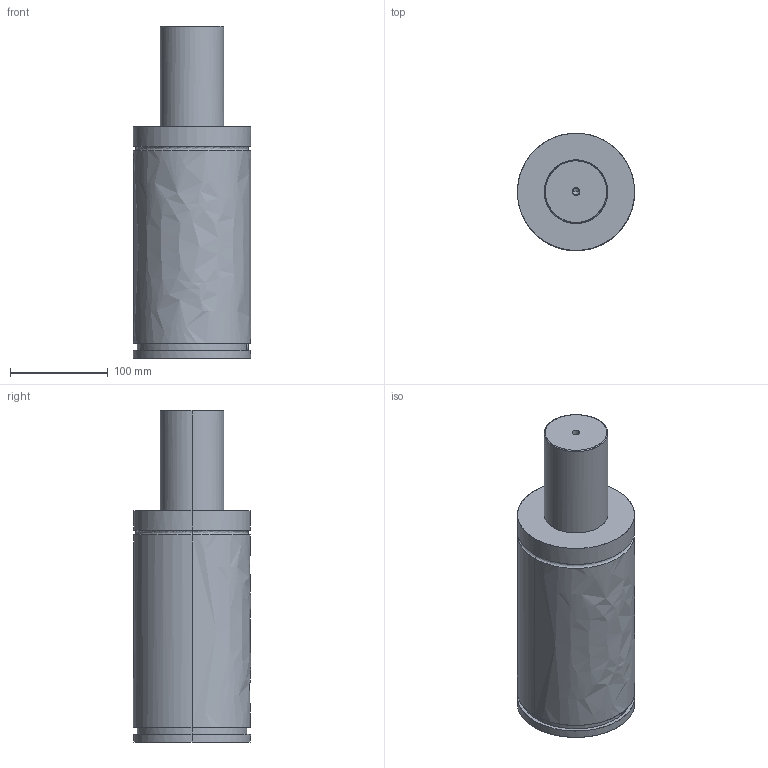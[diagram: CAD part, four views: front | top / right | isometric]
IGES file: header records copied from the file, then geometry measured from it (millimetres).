
Global section: file name: E:\UnigraphicsGraphicData\MISUMI_PRESS-PARTS\IGES\3d_gse120-100_03865_r00.igs; native system: NX V5.0; preprocessor: UGS NX IGES V5.0; author: MISUMI; date: 20110105.160750; units: millimetre
Bounding box: 120 x 120 x 340 mm (x, y, z)
Surface area: 139942.8 mm2 (no closed solid volume)
Topology: 0 solids, 0 shells, 75 faces, 604 edges, 602 vertices
Faces by surface type: bspline 75
